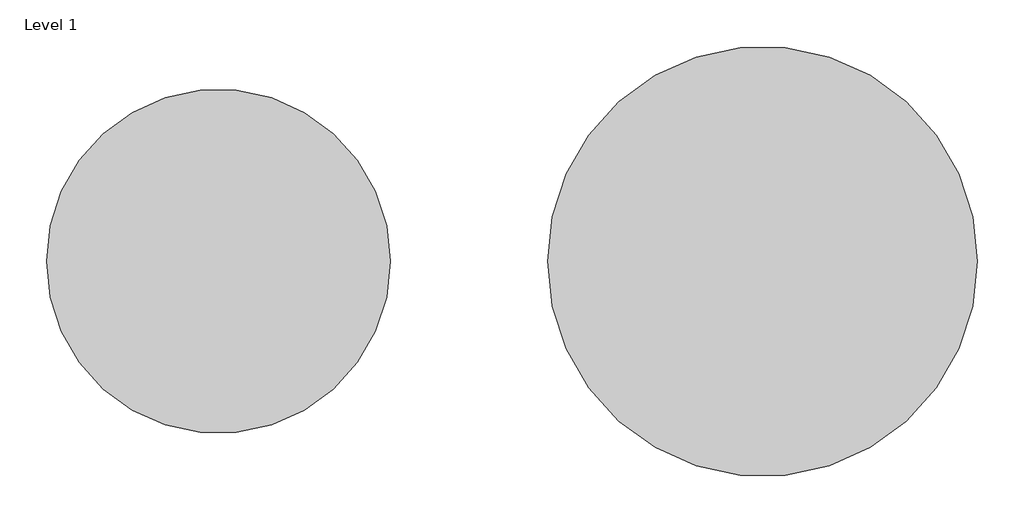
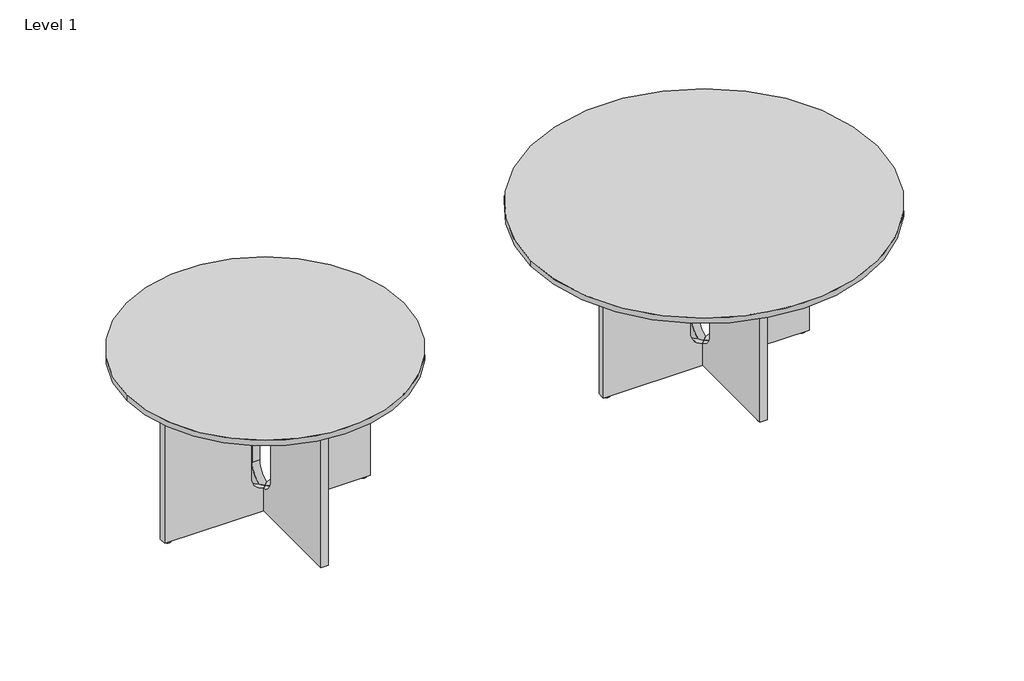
# One storey: 2 furniture elements.
"""IFC4 building model written with IfcOpenShell, lengths in millimetres."""

from ifc_helpers import new_model, si_unit, origin, place, context, project, spatial, transform, mapped, element, save
from components import furniture_845a83a7, natural_oak_079cc0ae

model = new_model("IFC4")

# Units and contexts
model_context = context("Model", 3, world=origin())
ifc_project = project(units=[si_unit("LENGTHUNIT", "METRE", prefix="MILLI")], contexts=[model_context])

# Site, building, storey
site = spatial("IfcSite", under=ifc_project)
building = spatial("IfcBuilding", under=site)
storey = spatial("IfcBuildingStorey", under=building, Name="Level 1", Elevation=0.0)

# Furniture
placement = place(None, origin())
furniture_shape = furniture_845a83a7(model_context)
element("IfcFurniture", 1, ObjectType="Audo Copenhagen - Androgyne - Dining Table Round - 120 : Dark Stained Oak/Kunis Breccia Sand", at=placement, inside=storey, context=model_context, shape_type="MappedRepresentation", body=[
    mapped(furniture_shape, transform((-4510.7585, 3117.1947554, 0.0), x_axis=(1.0, 0.0, 0.0), y_axis=(0.0, 1.0, 0.0), z_axis=(0.0, 0.0, 1.0))),
])
natural_oak_shape = natural_oak_079cc0ae(model_context)
element("IfcFurniture", 2, ObjectType="Audo Copenhagen - Androgyne - Dining Table Round - 150 : Natural Oak", at=placement, inside=storey, context=model_context, shape_type="MappedRepresentation", body=[
    mapped(natural_oak_shape, transform((-2610.7585, 3117.1947554, 0.0), x_axis=(1.0, 0.0, 0.0), y_axis=(0.0, 1.0, 0.0), z_axis=(0.0, 0.0, 1.0))),
])

save(model, "model.ifc")
